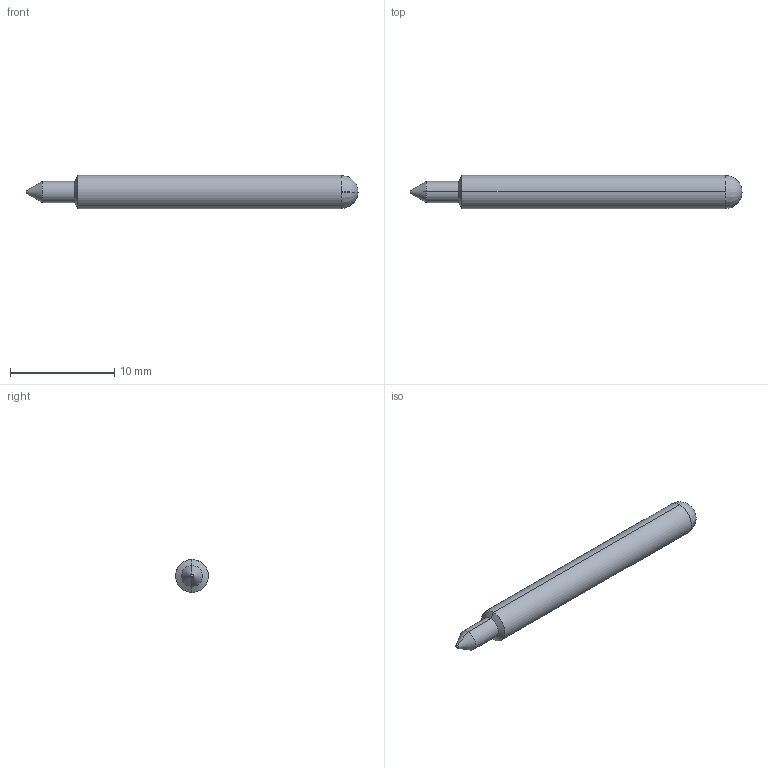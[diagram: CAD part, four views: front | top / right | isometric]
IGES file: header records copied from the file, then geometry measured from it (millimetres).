
Start section: SolidWorks IGES file using analytic representation for surfaces
Global section: file name: Z:\probe solid model mockups\Solidworks models\IGES Files\HCP-15 IGES files\HCP-15B RECD.IGS; native system: SolidWorks 2006 by SolidWorks Corporation; preprocessor: SolidWorks 2006 by SolidWorks Corporation; author: tsakatani; date: 071202.143808; units: inch
Bounding box: 31.83 x 3.17 x 3.17 mm (x, y, z)
Surface area: 299.4 mm2 (no closed solid volume)
Topology: 0 solids, 0 shells, 12 faces, 56 edges, 52 vertices
Faces by surface type: revolution 12
